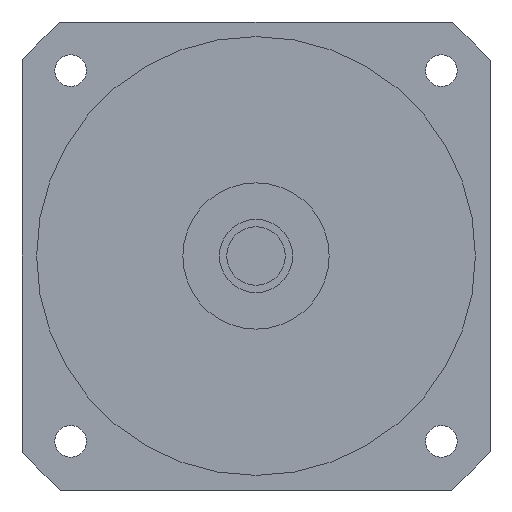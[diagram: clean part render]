
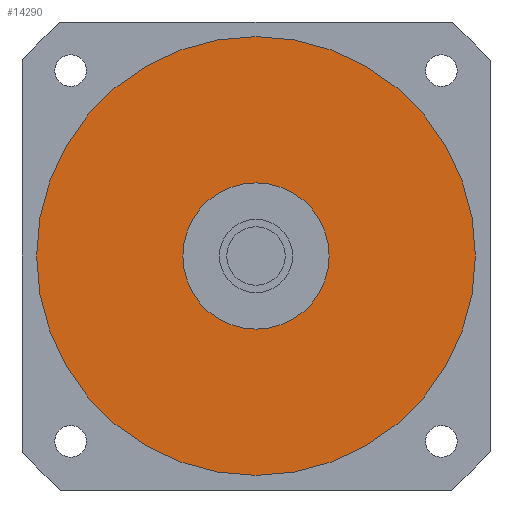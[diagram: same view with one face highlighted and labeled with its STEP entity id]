
A CAD part, left-side view. The second image highlights one B-rep face of the part: STEP entity #14290.
In plain terms, the highlighted planar face has unit normal (-1, 0, 0) as drawn and (0, 0, -1) by its records, which use the part's own axes.
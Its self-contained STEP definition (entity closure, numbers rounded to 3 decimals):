
#13710=CARTESIAN_POINT('',(90.,0.,-62.9));
#13720=VERTEX_POINT('',#13710);
#13810=CARTESIAN_POINT('',(-90.,0.,-62.9));
#13820=VERTEX_POINT('',#13810);
#13850=CARTESIAN_POINT('',(0.,0.,
-62.9));
#13860=DIRECTION('',(0.,0.,1.));
#13870=DIRECTION('',(0.,1.,0.));
#13880=AXIS2_PLACEMENT_3D('',#13850,#13860,#13870);
#13890=CIRCLE('',#13880,90.);
#13900=CARTESIAN_POINT('',(0.,90.,-62.9));
#13910=VERTEX_POINT('',#13900);
#13920=EDGE_CURVE('',#13910,#13820,#13890,.T.);
#13940=EDGE_CURVE('',#13720,#13910,#13890,.T.);
#13990=CARTESIAN_POINT('',(0.,0.,
-62.9));
#14000=DIRECTION('',(0.,0.,1.));
#14010=DIRECTION('',(-1.,0.,0.));
#14020=AXIS2_PLACEMENT_3D('',#13990,#14000,#14010);
#14030=PLANE('',#14020);
#14040=ORIENTED_EDGE('',*,*,#13920,.F.);
#14050=EDGE_CURVE('',#13820,#13720,#13890,.T.);
#14060=ORIENTED_EDGE('',*,*,#14050,.F.);
#14070=ORIENTED_EDGE('',*,*,#13940,.F.);
#14080=EDGE_LOOP('',(#14070,#14060,#14040));
#14090=FACE_OUTER_BOUND('',#14080,.T.);
#14100=CARTESIAN_POINT('',(0.,0.,
-62.9));
#14110=DIRECTION('',(0.,0.,1.));
#14120=DIRECTION('',(0.,1.,0.));
#14130=AXIS2_PLACEMENT_3D('',#14100,#14110,#14120);
#14140=CIRCLE('',#14130,30.);
#14150=CARTESIAN_POINT('',(-30.,0.,-62.9));
#14160=VERTEX_POINT('',#14150);
#14170=CARTESIAN_POINT('',(30.,0.,-62.9));
#14180=VERTEX_POINT('',#14170);
#14190=EDGE_CURVE('',#14160,#14180,#14140,.T.);
#14200=ORIENTED_EDGE('',*,*,#14190,.T.);
#14210=CARTESIAN_POINT('',(0.,30.,-62.9));
#14220=VERTEX_POINT('',#14210);
#14230=EDGE_CURVE('',#14220,#14160,#14140,.T.);
#14240=ORIENTED_EDGE('',*,*,#14230,.T.);
#14250=EDGE_CURVE('',#14180,#14220,#14140,.T.);
#14260=ORIENTED_EDGE('',*,*,#14250,.T.);
#14270=EDGE_LOOP('',(#14260,#14240,#14200));
#14280=FACE_BOUND('',#14270,.T.);
#14290=ADVANCED_FACE('',(#14090,#14280),#14030,.F.);
